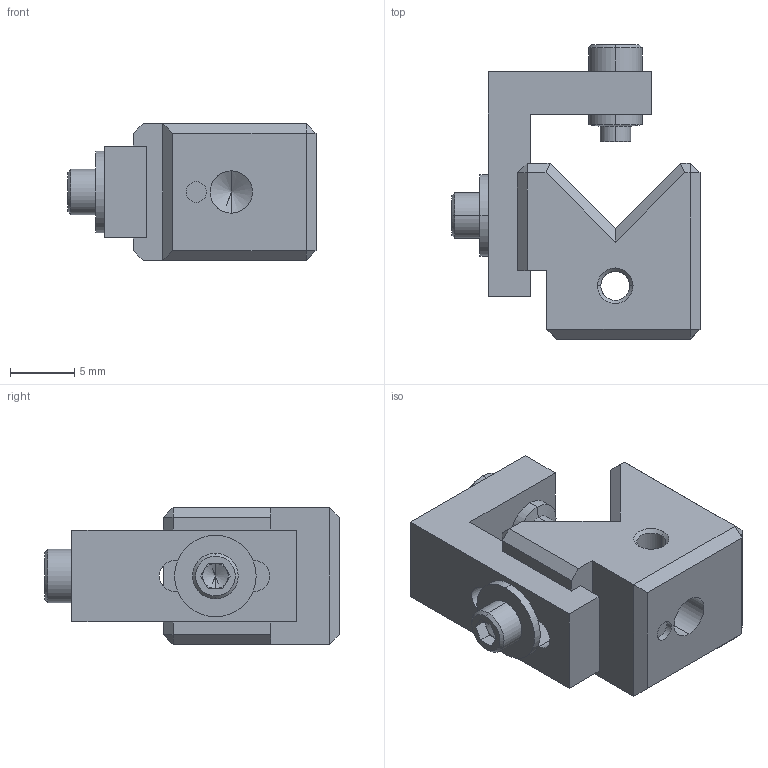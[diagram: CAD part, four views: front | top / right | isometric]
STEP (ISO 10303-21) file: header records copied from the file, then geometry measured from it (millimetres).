
FILE_DESCRIPTION (( 'STEP AP214' ), '1' );
FILE_NAME ('0246-E0W.STEP', '2018-08-06T14:42:18', ( '' ), ( '' ), 'SwSTEP 2.0', 'SolidWorks 2018', '' );
FILE_SCHEMA (( 'AUTOMOTIVE_DESIGN' ));
Length unit declared in the file: inch
Products named in the file (1): 0246-E0W
Bounding box: 19.33 x 22.95 x 10.67 mm (x, y, z)
Volume: 2145.1 mm3; surface area: 1958.6 mm2
Topology: 5 solids, 5 shells, 334 faces, 849 edges, 543 vertices
Faces by surface type: plane 222, bspline 65, cylinder 27, cone 18, torus 2
Entity records: 14831 total; most frequent: CARTESIAN_POINT 2776, ORIENTED_EDGE 1686, DIRECTION 1315, EDGE_CURVE 843, LINE 635, VECTOR 635, VERTEX_POINT 543, EDGE_LOOP 368
